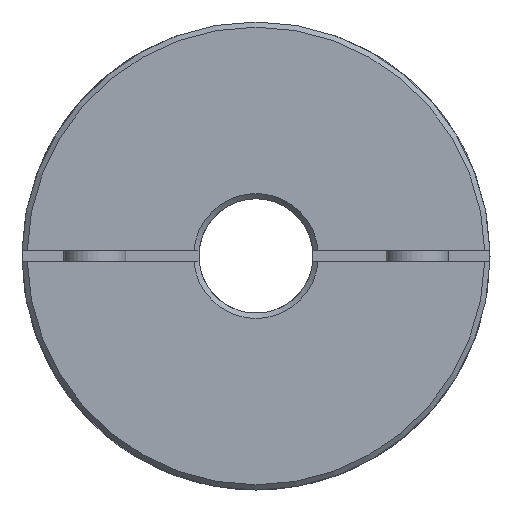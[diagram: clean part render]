
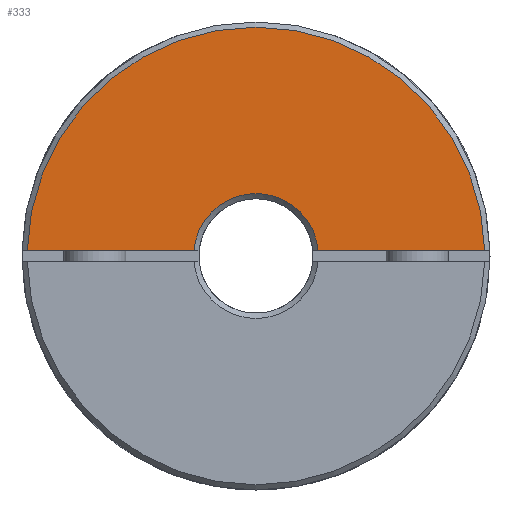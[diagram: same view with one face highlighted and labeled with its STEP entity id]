
A CAD part, left-side view. The second image highlights one B-rep face of the part: STEP entity #333.
In plain terms, the highlighted planar face has unit normal (-1, 0, 0) as drawn and (1, 0, 0) by its records, which use the part's own axes.
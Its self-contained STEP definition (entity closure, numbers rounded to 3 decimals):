
#333 = ADVANCED_FACE( '', ( #654 ), #655, .T. );
#654 = FACE_OUTER_BOUND( '', #1001, .T. );
#655 = PLANE( '', #1002 );
#1001 = EDGE_LOOP( '', ( #1482, #1483, #1484, #1485 ) );
#1002 = AXIS2_PLACEMENT_3D( '', #1486, #1487, #1488 );
#1482 = ORIENTED_EDGE( '', *, *, #1911, .F. );
#1483 = ORIENTED_EDGE( '', *, *, #1912, .T. );
#1484 = ORIENTED_EDGE( '', *, *, #1773, .F. );
#1485 = ORIENTED_EDGE( '', *, *, #1836, .T. );
#1486 = CARTESIAN_POINT( '', ( 29., 0., 45. ) );
#1487 = DIRECTION( '', ( 1., 0., 0. ) );
#1488 = DIRECTION( '', ( 0., 0., -1. ) );
#1773 = EDGE_CURVE( '', #2006, #2007, #2008, .T. );
#1836 = EDGE_CURVE( '', #2006, #2108, #2110, .F. );
#1911 = EDGE_CURVE( '', #2217, #2108, #2218, .T. );
#1912 = EDGE_CURVE( '', #2217, #2007, #2219, .T. );
#2006 = VERTEX_POINT( '', #2327 );
#2007 = VERTEX_POINT( '', #2328 );
#2008 = LINE( '', #2329, #2330 );
#2108 = VERTEX_POINT( '', #2550 );
#2110 = CIRCLE( '', #2555, 12. );
#2217 = VERTEX_POINT( '', #2851 );
#2218 = LINE( '', #2852, #2853 );
#2219 = CIRCLE( '', #2854, 44. );
#2327 = CARTESIAN_POINT( '', ( 29., -11.958, 1. ) );
#2328 = CARTESIAN_POINT( '', ( 29., -43.989, 1. ) );
#2329 = CARTESIAN_POINT( '', ( 29., 0., 1. ) );
#2330 = VECTOR( '', #3046, 1000. );
#2550 = CARTESIAN_POINT( '', ( 29., 11.958, 1. ) );
#2555 = AXIS2_PLACEMENT_3D( '', #3139, #3140, #3141 );
#2851 = CARTESIAN_POINT( '', ( 29., 43.989, 1. ) );
#2852 = CARTESIAN_POINT( '', ( 29., 0., 1. ) );
#2853 = VECTOR( '', #3240, 1000. );
#2854 = AXIS2_PLACEMENT_3D( '', #3241, #3242, #3243 );
#3046 = DIRECTION( '', ( 0., -1., 0. ) );
#3139 = CARTESIAN_POINT( '', ( 29., 0., 0. ) );
#3140 = DIRECTION( '', ( 1., 0., 0. ) );
#3141 = DIRECTION( '', ( 0., 0., -1. ) );
#3240 = DIRECTION( '', ( 0., -1., 0. ) );
#3241 = CARTESIAN_POINT( '', ( 29., 0., 0. ) );
#3242 = DIRECTION( '', ( 1., 0., 0. ) );
#3243 = DIRECTION( '', ( 0., 0., -1. ) );
